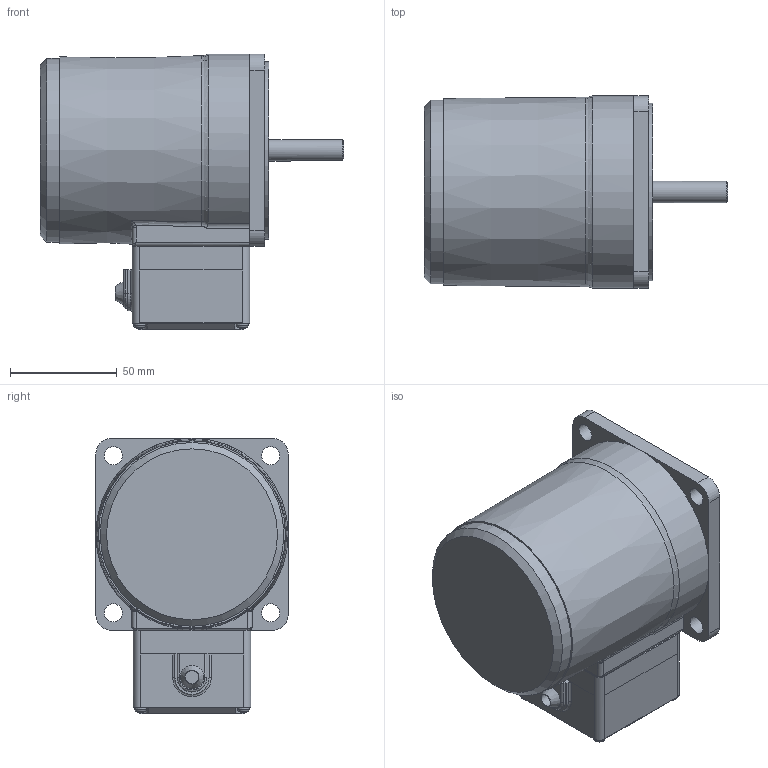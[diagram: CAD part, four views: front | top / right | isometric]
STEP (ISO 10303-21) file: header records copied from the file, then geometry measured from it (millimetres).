
FILE_DESCRIPTION(/* description */ (''),/* implementation_level */ '2;1');
FILE_NAME(/* name */ 'E:\도면작업\2016\0704) 미주향 SG 도면\3D MOTOR\TERMINAL BOX TYPE\INDUCTION TERMINAL BOX\SG9I40K_-T1.stp',/* time_stamp */ '2017-01-23T18:35:42+09:00',/* author */ ('jy-jung'),/* organization */ (''),/* preprocessor_version */ 'ST-DEVELOPER v15.6',/* originating_system */ 'Autodesk Inventor 2015',/* authorisation */ '');
FILE_SCHEMA (('AUTOMOTIVE_DESIGN { 1 0 10303 214 3 1 1 }'));
Length unit declared in the file: millimetre
Products named in the file (1): 부품1
Bounding box: 142 x 90 x 129 mm (x, y, z)
Volume: 778149.7 mm3; surface area: 58891.8 mm2
Topology: 1 solids, 2 shells, 253 faces, 675 edges, 433 vertices
Faces by surface type: plane 111, cylinder 52, cone 44, torus 24, bspline 18, sphere 4
Full cylindrical faces by diameter (mm): 8 x1, 8.5 x4, 10 x1, 40 x1, 83 x1, 86 x1
Entity records: 8746 total; most frequent: CARTESIAN_POINT 2537, ORIENTED_EDGE 1272, DIRECTION 1236, EDGE_CURVE 636, AXIS2_PLACEMENT_3D 478, VERTEX_POINT 422, EDGE_LOOP 296, LINE 280
